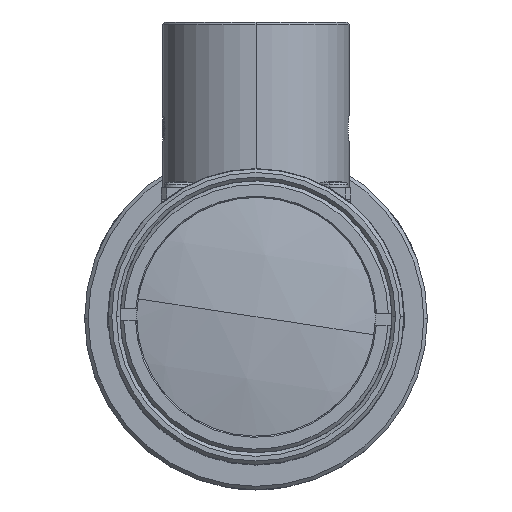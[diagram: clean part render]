
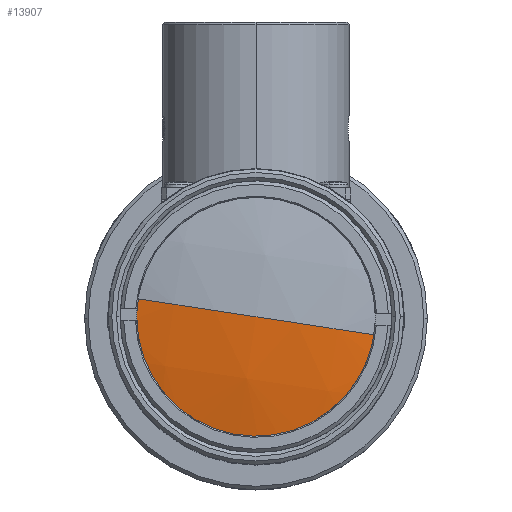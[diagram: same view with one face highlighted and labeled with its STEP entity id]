
A CAD part, top view. The second image highlights one B-rep face of the part: STEP entity #13907.
In plain terms, the highlighted spherical face has radius 48 mm.
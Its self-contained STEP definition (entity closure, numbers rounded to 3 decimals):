
#659 = DIRECTION ( 'NONE',  ( -0.989, 0.151, 0. ) ) ;
#1033 = DIRECTION ( 'NONE',  ( -0.151, -0.989, 0. ) ) ;
#1445 = EDGE_LOOP ( 'NONE', ( #2211, #18212, #12039, #21113 ) ) ;
#1555 = AXIS2_PLACEMENT_3D ( 'NONE', #3787, #3540, #23189 ) ;
#1608 = CIRCLE ( 'NONE', #21890, 10.491 ) ;
#2211 = ORIENTED_EDGE ( 'NONE', *, *, #23358, .T. ) ;
#2459 = CARTESIAN_POINT ( 'NONE',  ( 0., 0., 104.312 ) ) ;
#3540 = DIRECTION ( 'NONE',  ( -0.151, -0.989, 0. ) ) ;
#3787 = CARTESIAN_POINT ( 'NONE',  ( 0., 0., 56.312 ) ) ;
#3941 = FACE_OUTER_BOUND ( 'NONE', #1445, .T. ) ;
#4022 = CARTESIAN_POINT ( 'NONE',  ( 0., 0., 103.152 ) ) ;
#4591 = AXIS2_PLACEMENT_3D ( 'NONE', #18546, #24263, #14974 ) ;
#5175 = DIRECTION ( 'NONE',  ( 0., 0., 1. ) ) ;
#5733 = EDGE_CURVE ( 'NONE', #23624, #14482, #21026, .T. ) ;
#6357 = SPHERICAL_SURFACE ( 'NONE', #10072, 48. ) ;
#7290 = CIRCLE ( 'NONE', #21484, 10.491 ) ;
#9876 = CIRCLE ( 'NONE', #4591, 48. ) ;
#10072 = AXIS2_PLACEMENT_3D ( 'NONE', #22082, #1033, #659 ) ;
#10241 = CARTESIAN_POINT ( 'NONE',  ( 10.372, -1.58, 103.152 ) ) ;
#11077 = CARTESIAN_POINT ( 'NONE',  ( -1.58, -10.372, 103.152 ) ) ;
#11377 = EDGE_CURVE ( 'NONE', #16553, #14482, #9876, .T. ) ;
#12039 = ORIENTED_EDGE ( 'NONE', *, *, #5733, .T. ) ;
#13562 = VERTEX_POINT ( 'NONE', #11077 ) ;
#13907 = ADVANCED_FACE ( 'NONE', ( #3941 ), #6357, .T. ) ;
#14482 = VERTEX_POINT ( 'NONE', #2459 ) ;
#14796 = DIRECTION ( 'NONE',  ( -0.151, -0.989, 0. ) ) ;
#14974 = DIRECTION ( 'NONE',  ( -0.989, 0.151, 0. ) ) ;
#16044 = DIRECTION ( 'NONE',  ( -0.151, -0.989, 0. ) ) ;
#16553 = VERTEX_POINT ( 'NONE', #22558 ) ;
#18212 = ORIENTED_EDGE ( 'NONE', *, *, #23636, .T. ) ;
#18546 = CARTESIAN_POINT ( 'NONE',  ( 0., 0., 56.312 ) ) ;
#21026 = CIRCLE ( 'NONE', #1555, 48. ) ;
#21113 = ORIENTED_EDGE ( 'NONE', *, *, #11377, .F. ) ;
#21484 = AXIS2_PLACEMENT_3D ( 'NONE', #4022, #21557, #16044 ) ;
#21557 = DIRECTION ( 'NONE',  ( 0., 0., 1. ) ) ;
#21890 = AXIS2_PLACEMENT_3D ( 'NONE', #22184, #5175, #14796 ) ;
#22082 = CARTESIAN_POINT ( 'NONE',  ( 0., 0., 56.312 ) ) ;
#22184 = CARTESIAN_POINT ( 'NONE',  ( 0., 0., 103.152 ) ) ;
#22558 = CARTESIAN_POINT ( 'NONE',  ( -10.372, 1.58, 103.152 ) ) ;
#23189 = DIRECTION ( 'NONE',  ( 0.989, -0.151, 0. ) ) ;
#23358 = EDGE_CURVE ( 'NONE', #16553, #13562, #1608, .T. ) ;
#23624 = VERTEX_POINT ( 'NONE', #10241 ) ;
#23636 = EDGE_CURVE ( 'NONE', #13562, #23624, #7290, .T. ) ;
#24263 = DIRECTION ( 'NONE',  ( 0.151, 0.989, 0. ) ) ;
